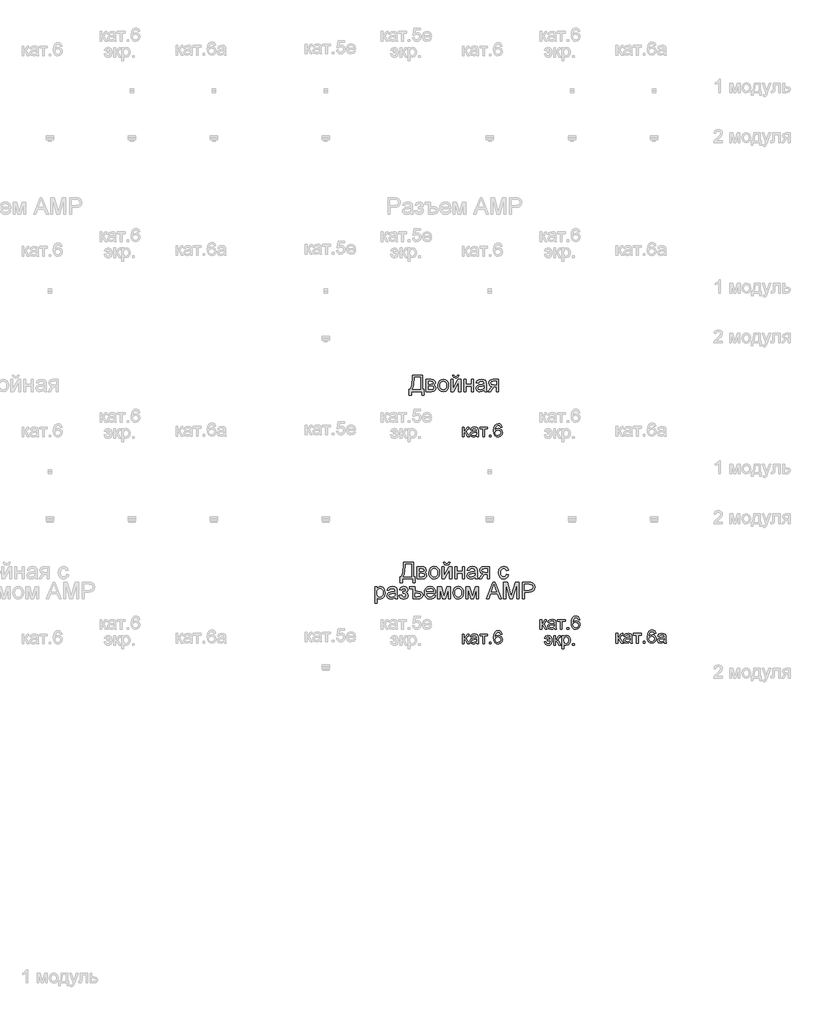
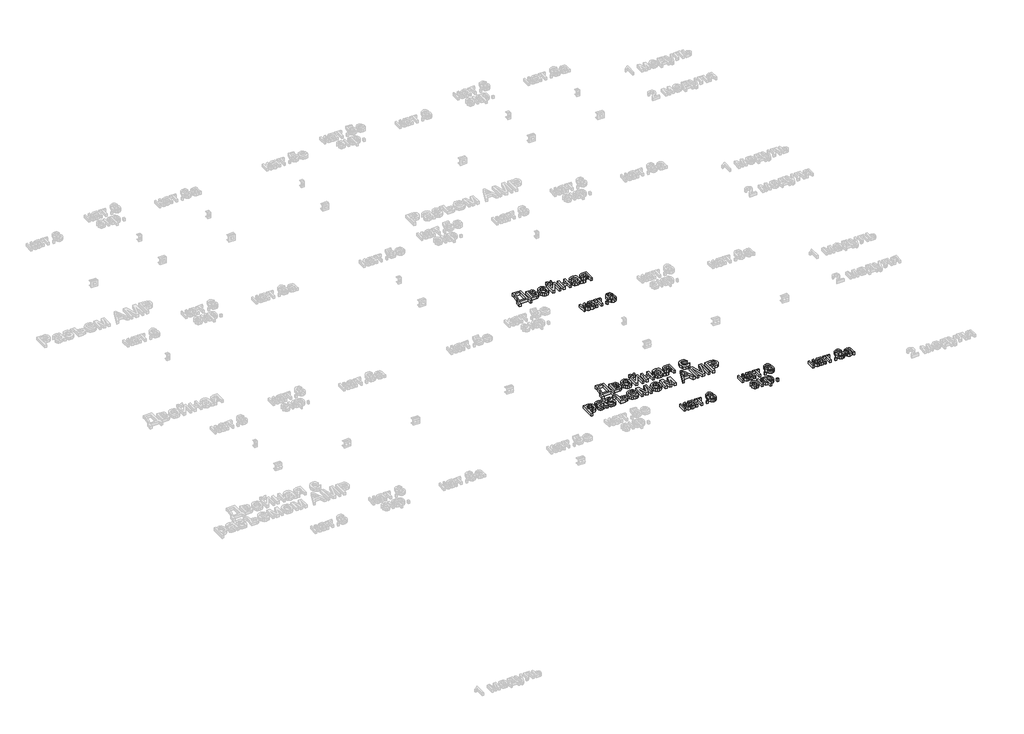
# One storey, part 30 of 47: 6 proxies.
"""IFC4 building model written with IfcOpenShell, lengths in millimetres."""

from ifc_helpers import new_model, si_unit, origin, origin_with_axes, place, context, project, spatial, polyline, outline, extrude, element, save

model = new_model("IFC4")

# Units and contexts
model_context = context("Model", 3, world=origin())
ifc_project = project(units=[si_unit("LENGTHUNIT", "METRE", prefix="MILLI")], contexts=[model_context])

# Site, building, storey
site = spatial("IfcSite", under=ifc_project)
building = spatial("IfcBuilding", under=site)
storey = spatial("IfcBuildingStorey", under=building, Name="Этаж 01", Elevation=0.0)

# Proxies
placement = place(None, origin())
element("IfcBuildingElementProxy", 1, Name="100 мм Arial", ObjectType="100 мм Arial", at=placement, inside=storey, context=model_context, shape_type="SweptSolid", body=[
    extrude(outline(polyline([(5995.2901237, -22050.4463281), (6054.9360579, -22050.4463281), (6054.9360579, -22138.3455994), (6064.353837, -22138.3455994), (6064.353837, -22174.4470859), (6051.7967982, -22174.4470859), (6051.7967982, -22150.9026382), (5987.4419745, -22150.9026382), (5987.4419745, -22174.4470859), (5974.8849357, -22174.4470859), (5974.8849357, -22138.3455994), (5982.733085, -22138.3455994), (5992.150864, -22110.9322594), (5995.2901237, -22064.9899296), (5995.2901237, -22050.4463281)]), holes=[polyline([(6042.3790191, -22063.0033668), (6007.8471625, -22063.0033668), (6007.8471625, -22068.0556129), (6005.296514, -22102.4648422), (6001.5195922, -22122.348864), (5995.2901237, -22138.3455994), (6042.3790191, -22138.3455994), (6042.3790191, -22063.0033668)])]), origin_with_axes(), (0.0, 0.0, 1.0), 20.0),
    extrude(outline(polyline([(6078.4805056, -22077.1300355), (6106.1452316, -22077.1300355), (6121.3142326, -22078.8100299), (6129.8490948, -22084.9659219), (6133.4175502, -22095.6958135), (6131.2593092, -22104.4146168), (6124.7600606, -22110.6318225), (6133.196821, -22117.4376394), (6136.5568099, -22129.2711769), (6134.4292257, -22138.8422401), (6129.3708482, -22145.580612), (6121.3632835, -22149.5721317), (6110.3881373, -22150.9026382), (6078.4805056, -22150.9026382), (6078.4805056, -22077.1300355)]), holes=[polyline([(6091.0375444, -22105.3833727), (6103.4474303, -22105.3833727), (6113.6868125, -22104.7457106), (6118.6654822, -22102.1950621), (6120.8605114, -22097.5842744), (6117.0100132, -22091.4283823), (6103.8398378, -22089.6870742), (6091.0375444, -22089.6870742), (6091.0375444, -22105.3833727)]), polyline([(6091.0375444, -22138.3455994), (6106.4395372, -22138.3455994), (6120.100222, -22136.0769938), (6123.9997711, -22128.2411073), (6121.8537928, -22122.1955799), (6116.2619865, -22118.6761754), (6105.2132639, -22117.9404114), (6091.0375444, -22117.9404114), (6091.0375444, -22138.3455994)])]), origin_with_axes(), (0.0, 0.0, 1.0), 20.0),
    extrude(outline(polyline([(6149.1138487, -22114.0163368), (6151.8300441, -22096.2292424), (6159.9786302, -22083.7273859), (6170.0463342, -22077.6021507), (6182.1006009, -22075.5604056), (6195.2922361, -22078.0466748), (6205.8289896, -22085.5054822), (6212.735974, -22097.3482168), (6215.0383022, -22112.9862672), (6210.9670748, -22135.3289671), (6199.1090118, -22147.971845), (6182.1006009, -22152.4722681), (6168.7495501, -22149.995196), (6158.2250594, -22142.5639797), (6151.3916513, -22130.4729248), (6149.1138487, -22114.0163368)]), holes=[polyline([(6161.6708874, -22113.9918114), (6163.1240213, -22125.3562993), (6167.4834229, -22133.4527689), (6174.0439852, -22138.2996142), (6182.1006009, -22139.9152293), (6190.1204284, -22138.2904171), (6196.6687279, -22133.4159807), (6201.0281295, -22125.2122122), (6202.4812634, -22113.5994039), (6201.0189325, -22102.5660097), (6196.6319397, -22094.5799048), (6190.0744431, -22089.7330595), (6182.1006009, -22088.1174444), (6174.0439852, -22089.7269281), (6167.4834229, -22094.5553793), (6163.1240213, -22102.6334548), (6161.6708874, -22113.9918114)])]), origin_with_axes(), (0.0, 0.0, 1.0), 20.0),
    extrude(outline(polyline([(6229.1649708, -22077.1300355), (6241.7220096, -22077.1300355), (6241.7220096, -22133.3914552), (6272.5750462, -22077.1300355), (6288.810905, -22077.1300355), (6288.810905, -22150.9026382), (6276.2538662, -22150.9026382), (6276.2538662, -22094.984575), (6245.5970333, -22150.9026382), (6229.1649708, -22150.9026382), (6229.1649708, -22077.1300355)])), origin_with_axes(), (0.0, 0.0, 1.0), 20.0),
    extrude(outline(polyline([(6269.9753468, -22050.4463281), (6279.3931259, -22050.4463281), (6273.2985475, -22064.4135812), (6259.7727528, -22069.2818862), (6245.1310494, -22064.4503694), (6238.5827499, -22050.4463281), (6248.000529, -22050.4463281), (6251.5321961, -22057.5219251), (6258.6445814, -22059.8641071), (6266.4436797, -22057.5955015), (6269.9753468, -22050.4463281)])), origin_with_axes(), (0.0, 0.0, 1.0), 20.0),
    extrude(outline(polyline([(6307.6464631, -22077.1300355), (6320.2035019, -22077.1300355), (6320.2035019, -22105.3833727), (6353.1657286, -22105.3833727), (6353.1657286, -22077.1300355), (6365.7227674, -22077.1300355), (6365.7227674, -22150.9026382), (6353.1657286, -22150.9026382), (6353.1657286, -22117.9404114), (6320.2035019, -22117.9404114), (6320.2035019, -22150.9026382), (6307.6464631, -22150.9026382), (6307.6464631, -22077.1300355)])), origin_with_axes(), (0.0, 0.0, 1.0), 20.0),
    extrude(outline(polyline([(6431.647221, -22141.4848591), (6419.4703269, -22149.995196), (6406.0181086, -22152.4722681), (6395.5242747, -22150.982346), (6387.7834244, -22146.5125797), (6383.0101555, -22139.7251569), (6381.4190659, -22131.2822651), (6383.8225616, -22121.3494513), (6390.1378692, -22114.1389642), (6398.9302488, -22110.0186858), (6409.7950304, -22108.1302249), (6431.5736446, -22103.8137428), (6431.647221, -22101.0178397), (6428.1891302, -22091.7472134), (6414.3077162, -22088.1174444), (6401.6035247, -22090.5332028), (6395.5457345, -22099.1048533), (6382.9886957, -22097.5352234), (6388.4210865, -22085.2724903), (6399.3594445, -22078.0865286), (6415.926397, -22075.5604056), (6431.1444489, -22077.792223), (6439.7406248, -22083.3962921), (6443.5911231, -22091.9188917), (6444.2042597, -22102.9063006), (6444.2042597, -22118.5290226), (6444.8419218, -22140.344425), (6447.3435194, -22150.9026382), (6434.7864806, -22150.9026382), (6431.647221, -22141.4848591)]), holes=[polyline([(6431.647221, -22116.3707816), (6411.3891858, -22120.2212798), (6400.5857178, -22122.2568935), (6395.6928873, -22125.5678315), (6393.9761046, -22130.3993484), (6397.7162383, -22137.1929025), (6408.6913845, -22139.9152293), (6421.395576, -22136.9108597), (6429.5870818, -22129.6390589), (6431.5736446, -22119.9269742), (6431.647221, -22116.3707816)])]), origin_with_axes(), (0.0, 0.0, 1.0), 20.0),
    extrude(outline(polyline([(6517.9768625, -22077.1300355), (6517.9768625, -22150.9026382), (6505.4198237, -22150.9026382), (6505.4198237, -22122.649301), (6498.5772186, -22122.649301), (6489.2575414, -22124.2434563), (6480.5019499, -22134.9610851), (6470.4955596, -22150.9026382), (6455.9764836, -22150.9026382), (6468.5825733, -22130.7427049), (6479.2756766, -22120.2948562), (6470.6917634, -22117.6645), (6464.6584987, -22112.6674362), (6459.9005582, -22098.4426657), (6461.5253703, -22089.8464898), (6466.3998068, -22083.0406728), (6474.3521892, -22078.6076948), (6485.2108394, -22077.1300355), (6517.9768625, -22077.1300355)]), holes=[polyline([(6505.4198237, -22089.6870742), (6488.8651339, -22089.6870742), (6475.4619666, -22092.593342), (6472.4575969, -22099.3991589), (6476.8844436, -22107.5048255), (6492.5684794, -22110.0922622), (6505.4198237, -22110.0922622), (6505.4198237, -22089.6870742)])]), origin_with_axes(), (0.0, 0.0, 1.0), 20.0),
])
element("IfcBuildingElementProxy", 2, Name="100 мм Arial", ObjectType="100 мм Arial", at=placement, inside=storey, context=model_context, shape_type="SweptSolid", body=[
    extrude(outline(polyline([(5940.3530791, -23190.4463281), (5999.9990133, -23190.4463281), (5999.9990133, -23278.3455994), (6009.4167924, -23278.3455994), (6009.4167924, -23314.4470859), (5996.8597536, -23314.4470859), (5996.8597536, -23290.9026382), (5932.5049299, -23290.9026382), (5932.5049299, -23314.4470859), (5919.9478911, -23314.4470859), (5919.9478911, -23278.3455994), (5927.7960404, -23278.3455994), (5937.2138194, -23250.9322594), (5940.3530791, -23204.9899296), (5940.3530791, -23190.4463281)]), holes=[polyline([(5987.4419745, -23203.0033668), (5952.9101179, -23203.0033668), (5952.9101179, -23208.0556129), (5950.3594694, -23242.4648422), (5946.5825476, -23262.348864), (5940.3530791, -23278.3455994), (5987.4419745, -23278.3455994), (5987.4419745, -23203.0033668)])]), origin_with_axes(), (0.0, 0.0, 1.0), 20.0),
    extrude(outline(polyline([(6023.543461, -23217.1300355), (6051.208187, -23217.1300355), (6066.3771879, -23218.8100299), (6074.9120502, -23224.9659219), (6078.4805056, -23235.6958135), (6076.3222645, -23244.4146168), (6069.823016, -23250.6318225), (6078.2597764, -23257.4376394), (6081.6197653, -23269.2711769), (6079.4921811, -23278.8422401), (6074.4338036, -23285.580612), (6066.4262389, -23289.5721317), (6055.4510927, -23290.9026382), (6023.543461, -23290.9026382), (6023.543461, -23217.1300355)]), holes=[polyline([(6036.1004997, -23245.3833727), (6048.5103857, -23245.3833727), (6058.7497679, -23244.7457106), (6063.7284376, -23242.1950621), (6065.9234668, -23237.5842744), (6062.0729686, -23231.4283823), (6048.9027932, -23229.6870742), (6036.1004997, -23229.6870742), (6036.1004997, -23245.3833727)]), polyline([(6036.1004997, -23278.3455994), (6051.5024926, -23278.3455994), (6065.1631774, -23276.0769938), (6069.0627265, -23268.2411073), (6066.9167482, -23262.1955799), (6061.3249419, -23258.6761754), (6050.2762193, -23257.9404114), (6036.1004997, -23257.9404114), (6036.1004997, -23278.3455994)])]), origin_with_axes(), (0.0, 0.0, 1.0), 20.0),
    extrude(outline(polyline([(6094.176804, -23254.0163368), (6096.8929994, -23236.2292424), (6105.0415856, -23223.7273859), (6115.1092896, -23217.6021507), (6127.1635563, -23215.5604056), (6140.3551915, -23218.0466748), (6150.891945, -23225.5054822), (6157.7989294, -23237.3482168), (6160.1012576, -23252.9862672), (6156.0300302, -23275.3289671), (6144.1719672, -23287.971845), (6127.1635563, -23292.4722681), (6113.8125055, -23289.995196), (6103.2880148, -23282.5639797), (6096.4546067, -23270.4729248), (6094.176804, -23254.0163368)]), holes=[polyline([(6106.7338428, -23253.9918114), (6108.1869767, -23265.3562993), (6112.5463783, -23273.4527689), (6119.1069406, -23278.2996142), (6127.1635563, -23279.9152293), (6135.1833838, -23278.2904171), (6141.7316833, -23273.4159807), (6146.0910849, -23265.2122122), (6147.5442188, -23253.5994039), (6146.0818879, -23242.5660097), (6141.6948951, -23234.5799048), (6135.1373985, -23229.7330595), (6127.1635563, -23228.1174444), (6119.1069406, -23229.7269281), (6112.5463783, -23234.5553793), (6108.1869767, -23242.6334548), (6106.7338428, -23253.9918114)])]), origin_with_axes(), (0.0, 0.0, 1.0), 20.0),
    extrude(outline(polyline([(6174.2279262, -23217.1300355), (6186.784965, -23217.1300355), (6186.784965, -23273.3914552), (6217.6380016, -23217.1300355), (6233.8738603, -23217.1300355), (6233.8738603, -23290.9026382), (6221.3168216, -23290.9026382), (6221.3168216, -23234.984575), (6190.6599886, -23290.9026382), (6174.2279262, -23290.9026382), (6174.2279262, -23217.1300355)])), origin_with_axes(), (0.0, 0.0, 1.0), 20.0),
    extrude(outline(polyline([(6215.0383022, -23190.4463281), (6224.4560813, -23190.4463281), (6218.3615029, -23204.4135812), (6204.8357082, -23209.2818862), (6190.1940048, -23204.4503694), (6183.6457053, -23190.4463281), (6193.0634843, -23190.4463281), (6196.5951515, -23197.5219251), (6203.7075367, -23199.8641071), (6211.506635, -23197.5955015), (6215.0383022, -23190.4463281)])), origin_with_axes(), (0.0, 0.0, 1.0), 20.0),
    extrude(outline(polyline([(6252.7094185, -23217.1300355), (6265.2664573, -23217.1300355), (6265.2664573, -23245.3833727), (6298.228684, -23245.3833727), (6298.228684, -23217.1300355), (6310.7857228, -23217.1300355), (6310.7857228, -23290.9026382), (6298.228684, -23290.9026382), (6298.228684, -23257.9404114), (6265.2664573, -23257.9404114), (6265.2664573, -23290.9026382), (6252.7094185, -23290.9026382), (6252.7094185, -23217.1300355)])), origin_with_axes(), (0.0, 0.0, 1.0), 20.0),
    extrude(outline(polyline([(6376.7101763, -23281.4848591), (6364.5332823, -23289.995196), (6351.081064, -23292.4722681), (6340.5872301, -23290.982346), (6332.8463798, -23286.5125797), (6328.0731109, -23279.7251569), (6326.4820213, -23271.2822651), (6328.885517, -23261.3494513), (6335.2008245, -23254.1389642), (6343.9932042, -23250.0186858), (6354.8579858, -23248.1302249), (6376.6365999, -23243.8137428), (6376.7101763, -23241.0178397), (6373.2520856, -23231.7472134), (6359.3706716, -23228.1174444), (6346.6664801, -23230.5332028), (6340.6086899, -23239.1048533), (6328.0516511, -23237.5352234), (6333.4840419, -23225.2724903), (6344.4223999, -23218.0865286), (6360.9893524, -23215.5604056), (6376.2074043, -23217.792223), (6384.8035802, -23223.3962921), (6388.6540784, -23231.9188917), (6389.2672151, -23242.9063006), (6389.2672151, -23258.5290226), (6389.9048772, -23280.344425), (6392.4064748, -23290.9026382), (6379.849436, -23290.9026382), (6376.7101763, -23281.4848591)]), holes=[polyline([(6376.7101763, -23256.3707816), (6356.4521411, -23260.2212798), (6345.6486732, -23262.2568935), (6340.7558427, -23265.5678315), (6339.03906, -23270.3993484), (6342.7791936, -23277.1929025), (6353.7543398, -23279.9152293), (6366.4585314, -23276.9108597), (6374.6500372, -23269.6390589), (6376.6365999, -23259.9269742), (6376.7101763, -23256.3707816)])]), origin_with_axes(), (0.0, 0.0, 1.0), 20.0),
    extrude(outline(polyline([(6463.0398179, -23217.1300355), (6463.0398179, -23290.9026382), (6450.4827791, -23290.9026382), (6450.4827791, -23262.649301), (6443.640174, -23262.649301), (6434.3204968, -23264.2434563), (6425.5649053, -23274.9610851), (6415.558515, -23290.9026382), (6401.039439, -23290.9026382), (6413.6455287, -23270.7427049), (6424.338632, -23260.2948562), (6415.7547188, -23257.6645), (6409.721454, -23252.6674362), (6404.9635136, -23238.4426657), (6406.5883257, -23229.8464898), (6411.4627621, -23223.0406728), (6419.4151446, -23218.6076948), (6430.2737948, -23217.1300355), (6463.0398179, -23217.1300355)]), holes=[polyline([(6450.4827791, -23229.6870742), (6433.9280893, -23229.6870742), (6420.524922, -23232.593342), (6417.5205523, -23239.3991589), (6421.947399, -23247.5048255), (6437.6314347, -23250.0922622), (6450.4827791, -23250.0922622), (6450.4827791, -23229.6870742)])]), origin_with_axes(), (0.0, 0.0, 1.0), 20.0),
    extrude(outline(polyline([(6568.2050176, -23264.2189308), (6580.7620563, -23265.7885607), (6577.261046, -23276.9568449), (6570.6820897, -23285.396671), (6561.6444553, -23290.7033688), (6550.767411, -23292.4722681), (6537.4102289, -23290.004393), (6526.9654459, -23282.6007679), (6520.2240083, -23270.586355), (6517.9768625, -23254.286117), (6521.815098, -23233.4272078), (6533.5137454, -23220.0240405), (6550.5957327, -23215.5604056), (6561.2060626, -23217.0932473), (6569.6888083, -23221.6917722), (6575.7741896, -23229.1107258), (6579.1924265, -23239.1048533), (6566.6353877, -23240.6744831), (6560.8105895, -23231.2689668), (6550.6938346, -23228.1174444), (6542.5789709, -23229.6686801), (6536.1379703, -23234.3223874), (6531.9349185, -23242.3299521), (6530.5339013, -23253.9427604), (6531.9042617, -23265.7119186), (6536.015343, -23273.7470745), (6542.3398476, -23278.3731906), (6550.3504781, -23279.9152293), (6562.1840156, -23276.0647311), (6568.2050176, -23264.2189308)])), origin_with_axes(), (0.0, 0.0, 1.0), 20.0),
    extrude(outline(polyline([(5765.3393513, -23441.1307933), (5765.3393513, -23339.1048533), (5777.8963901, -23339.1048533), (5777.8963901, -23351.4166374), (5786.5784051, -23341.0055769), (5798.3015781, -23337.5352234), (5814.2186057, -23342.3912658), (5824.6174034, -23356.076476), (5828.1245451, -23375.427069), (5824.1636823, -23395.7709433), (5812.6612386, -23409.6278318), (5796.7809991, -23414.4470859), (5785.8549039, -23411.2219871), (5777.8963901, -23403.0672695), (5777.8963901, -23441.1307933), (5765.3393513, -23441.1307933)]), holes=[polyline([(5777.8963901, -23376.5797659), (5779.2544878, -23387.8369549), (5783.3287809, -23395.7096296), (5789.3405858, -23400.3449428), (5796.511219, -23401.8900471), (5803.7983482, -23400.2897605), (5809.9634373, -23395.4889004), (5814.1664891, -23387.3280515), (5815.5675064, -23375.6477982), (5814.2002116, -23364.4519228), (5810.0983274, -23356.4688835), (5804.0957195, -23351.6864175), (5797.0262538, -23350.0922622), (5789.929197, -23351.7875851), (5783.6966628, -23356.8735537), (5779.3464583, -23365.1907524), (5777.8963901, -23376.5797659)])]), origin_with_axes(), (0.0, 0.0, 1.0), 20.0),
    extrude(outline(polyline([(5889.3401091, -23403.459677), (5877.1632151, -23411.9700138), (5863.7109968, -23414.4470859), (5853.2171629, -23412.9571638), (5845.4763126, -23408.4873976), (5840.7030437, -23401.6999748), (5839.1119541, -23393.257083), (5841.5154498, -23383.3242691), (5847.8307573, -23376.113782), (5856.623137, -23371.9935037), (5867.4879186, -23370.1050428), (5889.2665327, -23365.7885607), (5889.3401091, -23362.9926575), (5885.8820184, -23353.7220312), (5872.0006044, -23350.0922622), (5859.2964129, -23352.5080207), (5853.2386227, -23361.0796711), (5840.6815839, -23359.5100413), (5846.1139747, -23347.2473081), (5857.0523327, -23340.0613465), (5873.6192852, -23337.5352234), (5888.8373371, -23339.7670409), (5897.433513, -23345.3711099), (5901.2840112, -23353.8937095), (5901.8971479, -23364.8811184), (5901.8971479, -23380.5038405), (5902.53481, -23402.3192428), (5905.0364076, -23412.8774561), (5892.4793688, -23412.8774561), (5889.3401091, -23403.459677)]), holes=[polyline([(5889.3401091, -23378.3455994), (5869.0820739, -23382.1960977), (5858.278606, -23384.2317114), (5853.3857755, -23387.5426493), (5851.6689928, -23392.3741662), (5855.4091264, -23399.1677204), (5866.3842726, -23401.8900471), (5879.0884642, -23398.8856775), (5887.27997, -23391.6138767), (5889.2665327, -23381.9017921), (5889.3401091, -23378.3455994)])]), origin_with_axes(), (0.0, 0.0, 1.0), 20.0),
    extrude(outline(polyline([(5936.4290045, -23379.9152293), (5936.4290045, -23367.3581905), (5946.3372929, -23366.8676812), (5951.340488, -23364.255719), (5953.6949328, -23358.7988028), (5950.5434104, -23352.4589697), (5942.4132183, -23350.0922622), (5934.0132461, -23352.446707), (5928.5808553, -23359.5100413), (5914.4541867, -23357.9404114), (5923.8964912, -23342.6365204), (5941.137894, -23337.5352234), (5951.6347936, -23339.0895249), (5959.5810447, -23343.7524292), (5964.5842399, -23350.5735745), (5966.2519716, -23358.602599), (5963.8791327, -23366.4016973), (5956.7606161, -23372.4349621), (5965.0624865, -23380.2585858), (5967.8216014, -23391.5157749), (5966.0710963, -23400.75881), (5960.8195808, -23408.0827274), (5952.4226743, -23412.8559963), (5941.2359959, -23414.4470859), (5930.2945722, -23412.9755579), (5921.9221912, -23408.560974), (5916.1188527, -23401.2033341), (5912.8845568, -23390.9026382), (5927.0112254, -23389.3330084), (5932.6766082, -23398.6036346), (5942.4377438, -23401.8900471), (5951.6102682, -23398.7385247), (5955.2645627, -23390.681909), (5952.995957, -23384.0845586), (5948.1644402, -23380.5528914), (5938.8815511, -23379.8416529), (5936.4290045, -23379.9152293)])), origin_with_axes(), (0.0, 0.0, 1.0), 20.0),
    extrude(outline(polyline([(5977.2393805, -23339.1048533), (6010.2016073, -23339.1048533), (6010.2016073, -23367.3581905), (6025.7752784, -23367.3581905), (6040.0613626, -23369.0197909), (6049.8102354, -23374.0045919), (6055.4204359, -23381.39902), (6057.2905027, -23390.2895016), (6055.4694868, -23399.3669898), (6050.0064392, -23406.5866739), (6040.9871989, -23411.3047605), (6028.4976052, -23412.8774561), (5997.6445685, -23412.8774561), (5997.6445685, -23351.6618921), (5977.2393805, -23351.6618921), (5977.2393805, -23339.1048533)]), holes=[polyline([(6010.2016073, -23400.3204173), (6023.126528, -23400.3204173), (6039.8161079, -23397.9046589), (6044.7334639, -23390.1423488), (6040.5273464, -23382.5885051), (6024.7697343, -23379.9152293), (6010.2016073, -23379.9152293), (6010.2016073, -23400.3204173)])]), origin_with_axes(), (0.0, 0.0, 1.0), 20.0),
    extrude(outline(polyline([(6123.0678034, -23390.9026382), (6135.3795875, -23392.4722681), (6130.9435438, -23401.7490257), (6123.8648811, -23408.6836013), (6114.3030149, -23413.0062148), (6102.4173607, -23414.4470859), (6087.6836868, -23411.9608168), (6076.34679, -23404.5020093), (6069.1179088, -23392.5550415), (6066.7082817, -23376.6042913), (6069.1424343, -23360.1170466), (6076.4448919, -23347.7868684), (6087.6285045, -23340.0981347), (6101.7061222, -23337.5352234), (6115.3453472, -23340.0920033), (6126.2438513, -23347.7623429), (6133.389959, -23360.0679957), (6135.771995, -23376.5307149), (6135.6984186, -23379.9152293), (6079.2653205, -23379.9152293), (6081.43889, -23389.3146143), (6086.4880703, -23396.2246644), (6093.7751995, -23400.4737015), (6102.6626154, -23401.8900471), (6114.9743995, -23399.2658222), (6123.0678034, -23390.9026382)]), holes=[polyline([(6079.2653205, -23367.3581905), (6123.2149562, -23367.3581905), (6118.1872356, -23355.9783741), (6110.8663839, -23351.5637902), (6101.6570713, -23350.0922622), (6086.1937647, -23354.788889), (6081.3285254, -23360.2795278), (6079.2653205, -23367.3581905)])]), origin_with_axes(), (0.0, 0.0, 1.0), 20.0),
    extrude(outline(polyline([(6148.3290337, -23339.1048533), (6169.9359696, -23339.1048533), (6186.5887612, -23398.1621763), (6204.5414026, -23339.1048533), (6225.2408962, -23339.1048533), (6225.2408962, -23412.8774561), (6212.6838574, -23412.8774561), (6212.6838574, -23353.4767766), (6194.6331142, -23412.8774561), (6178.1520008, -23412.8774561), (6160.8860725, -23350.6318225), (6160.8860725, -23412.8774561), (6148.3290337, -23412.8774561), (6148.3290337, -23339.1048533)])), origin_with_axes(), (0.0, 0.0, 1.0), 20.0),
    extrude(outline(polyline([(6240.9371947, -23375.9911547), (6243.65339, -23358.2040602), (6251.8019762, -23345.7022037), (6261.8696802, -23339.5769685), (6273.9239469, -23337.5352234), (6287.1155821, -23340.0214926), (6297.6523356, -23347.4803001), (6304.55932, -23359.3230346), (6306.8616482, -23374.9610851), (6302.7904208, -23397.3037849), (6290.9323578, -23409.9466628), (6273.9239469, -23414.4470859), (6260.5728961, -23411.9700138), (6250.0484054, -23404.5387975), (6243.2149973, -23392.4477426), (6240.9371947, -23375.9911547)]), holes=[polyline([(6253.4942334, -23375.9666292), (6254.9473673, -23387.3311172), (6259.3067689, -23395.4275868), (6265.8673312, -23400.274432), (6273.9239469, -23401.8900471), (6281.9437744, -23400.265235), (6288.4920739, -23395.3907986), (6292.8514755, -23387.1870301), (6294.3046094, -23375.5742218), (6292.8422785, -23364.5408276), (6288.4552857, -23356.5547226), (6281.8977891, -23351.7078773), (6273.9239469, -23350.0922622), (6265.8673312, -23351.7017459), (6259.3067689, -23356.5301971), (6254.9473673, -23364.6082726), (6253.4942334, -23375.9666292)])]), origin_with_axes(), (0.0, 0.0, 1.0), 20.0),
    extrude(outline(polyline([(6320.9883168, -23339.1048533), (6342.5952527, -23339.1048533), (6359.2480443, -23398.1621763), (6377.2006857, -23339.1048533), (6397.9001793, -23339.1048533), (6397.9001793, -23412.8774561), (6385.3431405, -23412.8774561), (6385.3431405, -23353.4767766), (6367.2923973, -23412.8774561), (6350.8112839, -23412.8774561), (6333.5453556, -23350.6318225), (6333.5453556, -23412.8774561), (6320.9883168, -23412.8774561), (6320.9883168, -23339.1048533)])), origin_with_axes(), (0.0, 0.0, 1.0), 20.0),
    extrude(outline(polyline([(6445.847466, -23412.8774561), (6485.9466034, -23312.4211459), (6496.6397068, -23312.4211459), (6536.7388442, -23412.8774561), (6523.4705669, -23412.8774561), (6511.9681232, -23381.4848591), (6470.5936615, -23381.4848591), (6459.1157433, -23412.8774561), (6445.847466, -23412.8774561)]), holes=[polyline([(6475.2044492, -23368.9278204), (6507.381861, -23368.9278204), (6498.3319639, -23344.2306758), (6491.2931551, -23324.9781847), (6485.0391612, -23342.0724347), (6475.2044492, -23368.9278204)])]), origin_with_axes(), (0.0, 0.0, 1.0), 20.0),
    extrude(outline(polyline([(6550.1542743, -23412.8774561), (6550.1542743, -23312.4211459), (6571.7612102, -23312.4211459), (6592.313551, -23383.2261673), (6596.4583548, -23398.0150235), (6600.9465151, -23381.9998939), (6621.1554994, -23312.4211459), (6642.7624353, -23312.4211459), (6642.7624353, -23412.8774561), (6630.2053965, -23412.8774561), (6630.2053965, -23324.9781847), (6604.9686916, -23412.8774561), (6587.948018, -23412.8774561), (6562.7113131, -23324.9781847), (6562.7113131, -23412.8774561), (6550.1542743, -23412.8774561)])), origin_with_axes(), (0.0, 0.0, 1.0), 20.0),
    extrude(outline(polyline([(6664.7372531, -23412.8774561), (6664.7372531, -23312.4211459), (6701.966911, -23312.4211459), (6716.9764964, -23313.3776391), (6729.1779159, -23318.0742659), (6737.0873788, -23327.7863506), (6740.0794857, -23341.4838235), (6738.0592004, -23353.3234924), (6731.9983445, -23363.1888612), (6720.6645134, -23369.8475254), (6702.8253023, -23372.0670801), (6677.2942919, -23372.0670801), (6677.2942919, -23412.8774561), (6664.7372531, -23412.8774561)]), holes=[polyline([(6677.2942919, -23359.5100413), (6703.5610663, -23359.5100413), (6722.0532679, -23354.8992536), (6726.1551522, -23349.3503669), (6727.5224469, -23341.9252819), (6724.2973481, -23331.5264842), (6715.8237995, -23325.836576), (6703.2667607, -23324.9781847), (6677.2942919, -23324.9781847), (6677.2942919, -23359.5100413)])]), origin_with_axes(), (0.0, 0.0, 1.0), 20.0),
])
element("IfcBuildingElementProxy", 3, Name="80 мм Arial", ObjectType="80 мм Arial", at=placement, inside=storey, context=model_context, shape_type="SweptSolid", body=[
    extrude(outline(polyline([(6298.8748928, -22367.654338), (6308.9205238, -22367.654338), (6308.9205238, -22392.7684155), (6315.6503118, -22390.9633412), (6321.1636366, -22380.4468212), (6325.7449937, -22371.3723987), (6329.7867906, -22368.4195325), (6337.1346203, -22367.654338), (6339.0574169, -22367.654338), (6339.0574169, -22377.7588301), (6336.3498054, -22377.699969), (6331.4447121, -22378.7594692), (6327.9915264, -22385.3715349), (6323.9399194, -22392.5231609), (6318.2598214, -22396.0253975), (6324.5972019, -22399.9347568), (6330.8168602, -22408.1704084), (6341.5688246, -22426.6724202), (6330.1497675, -22426.6724202), (6319.6136271, -22408.5628159), (6314.3161264, -22400.9010602), (6308.9205238, -22399.0469349), (6308.9205238, -22426.6724202), (6298.8748928, -22426.6724202), (6298.8748928, -22367.654338)])), origin_with_axes(), (0.0, 0.0, 1.0), 20.0),
    extrude(outline(polyline([(6385.5184603, -22419.1381969), (6375.7769451, -22425.9464664), (6365.0151704, -22427.9281241), (6350.4274231, -22423.1603734), (6345.3359362, -22410.9761218), (6347.2587328, -22403.0298707), (6352.3109789, -22397.261481), (6359.3448826, -22393.9652583), (6368.0367079, -22392.4544896), (6385.4595992, -22389.0013039), (6385.5184603, -22386.7645814), (6382.7519877, -22379.3480804), (6371.6468565, -22376.4442651), (6361.4835033, -22378.3768719), (6356.6372711, -22385.2341923), (6346.5916401, -22383.9784884), (6350.9375528, -22374.1683019), (6359.6882391, -22368.4195325), (6372.9418012, -22366.3986341), (6385.1162427, -22368.1840881), (6391.9931834, -22372.6673433), (6395.073582, -22379.485423), (6395.5640913, -22388.2753501), (6395.5640913, -22400.7735278), (6396.074221, -22418.2258496), (6398.0754991, -22426.6724202), (6388.0298681, -22426.6724202), (6385.5184603, -22419.1381969)]), holes=[polyline([(6385.5184603, -22399.0469349), (6369.3120321, -22402.1273335), (6360.6692578, -22403.7558245), (6356.7549934, -22406.4045748), (6355.3815673, -22410.2697883), (6358.3736742, -22415.7046317), (6367.1537911, -22417.8824931), (6377.3171444, -22415.4789974), (6383.870349, -22409.6615568), (6385.4595992, -22401.891889), (6385.5184603, -22399.0469349)])]), origin_with_axes(), (0.0, 0.0, 1.0), 20.0),
    extrude(outline(polyline([(6404.3540185, -22367.654338), (6452.0707658, -22367.654338), (6452.0707658, -22377.699969), (6433.2352076, -22377.699969), (6433.2352076, -22426.6724202), (6423.1895766, -22426.6724202), (6423.1895766, -22377.699969), (6404.3540185, -22377.699969), (6404.3540185, -22367.654338)])), origin_with_axes(), (0.0, 0.0, 1.0), 20.0),
    extrude(outline(polyline([(6463.3721007, -22426.6724202), (6463.3721007, -22416.6267892), (6473.4177317, -22416.6267892), (6473.4177317, -22426.6724202), (6463.3721007, -22426.6724202)])), origin_with_axes(), (0.0, 0.0, 1.0), 20.0),
    extrude(outline(polyline([(6541.225741, -22367.654338), (6531.18011, -22368.9100419), (6527.3737576, -22360.5321426), (6517.3085063, -22356.3530031), (6508.2438939, -22358.7859294), (6501.3865735, -22367.919213), (6498.5318092, -22385.8228035), (6507.3904077, -22377.8078811), (6518.3680064, -22375.1885613), (6527.6484429, -22376.9789203), (6535.437731, -22382.3499974), (6540.7205164, -22390.5562185), (6542.4814449, -22400.8520092), (6539.1656019, -22414.7138028), (6530.0421284, -22424.5239894), (6516.876858, -22427.9281241), (6505.4798738, -22425.6717812), (6496.4029987, -22418.9027525), (6490.4653833, -22406.9539453), (6488.4861782, -22389.1582669), (6490.68366, -22369.1503914), (6497.2761053, -22355.4700863), (6506.2769515, -22348.5980506), (6517.9363582, -22346.3073721), (6526.7508108, -22347.724944), (6533.80924, -22351.9776599), (6541.225741, -22367.654338)]), holes=[polyline([(6498.5318092, -22400.6950463), (6500.8568234, -22409.3966817), (6507.0372409, -22415.7144418), (6516.0920431, -22417.8824931), (6527.9329383, -22413.3894276), (6532.4358139, -22401.1855556), (6527.9917994, -22389.5016234), (6515.6800153, -22385.2341923), (6503.5251942, -22389.5016234), (6498.5318092, -22400.6950463)])]), origin_with_axes(), (0.0, 0.0, 1.0), 20.0),
])
element("IfcBuildingElementProxy", 4, Name="80 мм Arial", ObjectType="80 мм Arial", at=placement, inside=storey, context=model_context, shape_type="SweptSolid", body=[
    extrude(outline(polyline([(6298.8748928, -23627.654338), (6308.9205238, -23627.654338), (6308.9205238, -23652.7684155), (6315.6503118, -23650.9633412), (6321.1636366, -23640.4468212), (6325.7449937, -23631.3723987), (6329.7867906, -23628.4195325), (6337.1346203, -23627.654338), (6339.0574169, -23627.654338), (6339.0574169, -23637.7588301), (6336.3498054, -23637.699969), (6331.4447121, -23638.7594692), (6327.9915264, -23645.3715349), (6323.9399194, -23652.5231609), (6318.2598214, -23656.0253975), (6324.5972019, -23659.9347568), (6330.8168602, -23668.1704084), (6341.5688246, -23686.6724202), (6330.1497675, -23686.6724202), (6319.6136271, -23668.5628159), (6314.3161264, -23660.9010602), (6308.9205238, -23659.0469349), (6308.9205238, -23686.6724202), (6298.8748928, -23686.6724202), (6298.8748928, -23627.654338)])), origin_with_axes(), (0.0, 0.0, 1.0), 20.0),
    extrude(outline(polyline([(6385.5184603, -23679.1381969), (6375.7769451, -23685.9464664), (6365.0151704, -23687.9281241), (6350.4274231, -23683.1603734), (6345.3359362, -23670.9761218), (6347.2587328, -23663.0298707), (6352.3109789, -23657.261481), (6359.3448826, -23653.9652583), (6368.0367079, -23652.4544896), (6385.4595992, -23649.0013039), (6385.5184603, -23646.7645814), (6382.7519877, -23639.3480804), (6371.6468565, -23636.4442651), (6361.4835033, -23638.3768719), (6356.6372711, -23645.2341923), (6346.5916401, -23643.9784884), (6350.9375528, -23634.1683019), (6359.6882391, -23628.4195325), (6372.9418012, -23626.3986341), (6385.1162427, -23628.1840881), (6391.9931834, -23632.6673433), (6395.073582, -23639.485423), (6395.5640913, -23648.2753501), (6395.5640913, -23660.7735278), (6396.074221, -23678.2258496), (6398.0754991, -23686.6724202), (6388.0298681, -23686.6724202), (6385.5184603, -23679.1381969)]), holes=[polyline([(6385.5184603, -23659.0469349), (6369.3120321, -23662.1273335), (6360.6692578, -23663.7558245), (6356.7549934, -23666.4045748), (6355.3815673, -23670.2697883), (6358.3736742, -23675.7046317), (6367.1537911, -23677.8824931), (6377.3171444, -23675.4789974), (6383.870349, -23669.6615568), (6385.4595992, -23661.891889), (6385.5184603, -23659.0469349)])]), origin_with_axes(), (0.0, 0.0, 1.0), 20.0),
    extrude(outline(polyline([(6404.3540185, -23627.654338), (6452.0707658, -23627.654338), (6452.0707658, -23637.699969), (6433.2352076, -23637.699969), (6433.2352076, -23686.6724202), (6423.1895766, -23686.6724202), (6423.1895766, -23637.699969), (6404.3540185, -23637.699969), (6404.3540185, -23627.654338)])), origin_with_axes(), (0.0, 0.0, 1.0), 20.0),
    extrude(outline(polyline([(6463.3721007, -23686.6724202), (6463.3721007, -23676.6267892), (6473.4177317, -23676.6267892), (6473.4177317, -23686.6724202), (6463.3721007, -23686.6724202)])), origin_with_axes(), (0.0, 0.0, 1.0), 20.0),
    extrude(outline(polyline([(6541.225741, -23627.654338), (6531.18011, -23628.9100419), (6527.3737576, -23620.5321426), (6517.3085063, -23616.3530031), (6508.2438939, -23618.7859294), (6501.3865735, -23627.919213), (6498.5318092, -23645.8228035), (6507.3904077, -23637.8078811), (6518.3680064, -23635.1885613), (6527.6484429, -23636.9789203), (6535.437731, -23642.3499974), (6540.7205164, -23650.5562185), (6542.4814449, -23660.8520092), (6539.1656019, -23674.7138028), (6530.0421284, -23684.5239894), (6516.876858, -23687.9281241), (6505.4798738, -23685.6717812), (6496.4029987, -23678.9027525), (6490.4653833, -23666.9539453), (6488.4861782, -23649.1582669), (6490.68366, -23629.1503914), (6497.2761053, -23615.4700863), (6506.2769515, -23608.5980506), (6517.9363582, -23606.3073721), (6526.7508108, -23607.724944), (6533.80924, -23611.9776599), (6541.225741, -23627.654338)]), holes=[polyline([(6498.5318092, -23660.6950463), (6500.8568234, -23669.3966817), (6507.0372409, -23675.7144418), (6516.0920431, -23677.8824931), (6527.9329383, -23673.3894276), (6532.4358139, -23661.1855556), (6527.9917994, -23649.5016234), (6515.6800153, -23645.2341923), (6503.5251942, -23649.5016234), (6498.5318092, -23660.6950463)])]), origin_with_axes(), (0.0, 0.0, 1.0), 20.0),
])
element("IfcBuildingElementProxy", 5, Name="80 мм Arial", ObjectType="80 мм Arial", at=placement, inside=storey, context=model_context, shape_type="SweptSolid", body=[
    extrude(outline(polyline([(6771.9396889, -23538.8197599), (6781.9853199, -23538.8197599), (6781.9853199, -23563.9338374), (6788.7151079, -23562.1287631), (6794.2284327, -23551.6122431), (6798.8097899, -23542.5378206), (6802.8515867, -23539.5849544), (6810.1994164, -23538.8197599), (6812.122213, -23538.8197599), (6812.122213, -23548.924252), (6809.4146015, -23548.8653909), (6804.5095082, -23549.924891), (6801.0563226, -23556.5369568), (6797.0047155, -23563.6885828), (6791.3246175, -23567.1908193), (6797.661998, -23571.1001787), (6803.8816563, -23579.3358303), (6814.6336207, -23597.8378421), (6803.2145636, -23597.8378421), (6792.6784233, -23579.7282377), (6787.3809225, -23572.0664821), (6781.9853199, -23570.2123568), (6781.9853199, -23597.8378421), (6771.9396889, -23597.8378421), (6771.9396889, -23538.8197599)])), origin_with_axes(), (0.0, 0.0, 1.0), 20.0),
    extrude(outline(polyline([(6858.5832564, -23590.3036188), (6848.8417412, -23597.1118883), (6838.0799666, -23599.093546), (6823.4922192, -23594.3257953), (6818.4007324, -23582.1415436), (6820.3235289, -23574.1952925), (6825.375775, -23568.4269029), (6832.4096787, -23565.1306802), (6841.101504, -23563.6199114), (6858.5243953, -23560.1667258), (6858.5832564, -23557.9300033), (6855.8167838, -23550.5135022), (6844.7116527, -23547.609687), (6834.5482994, -23549.5422938), (6829.7020673, -23556.3996142), (6819.6564362, -23555.1439103), (6824.0023489, -23545.3337237), (6832.7530353, -23539.5849544), (6846.0065973, -23537.564056), (6858.1810388, -23539.34951), (6865.0579795, -23543.8327652), (6868.1383781, -23550.6508448), (6868.6288874, -23559.440772), (6868.6288874, -23571.9389496), (6869.1390171, -23589.3912715), (6871.1402952, -23597.8378421), (6861.0946642, -23597.8378421), (6858.5832564, -23590.3036188)]), holes=[polyline([(6858.5832564, -23570.2123568), (6842.3768283, -23573.2927554), (6833.7340539, -23574.9212463), (6829.8197895, -23577.5699967), (6828.4463634, -23581.4352102), (6831.4384703, -23586.8700535), (6840.2185872, -23589.047915), (6850.3819405, -23586.6444193), (6856.9351451, -23580.8269786), (6858.5243953, -23573.0573109), (6858.5832564, -23570.2123568)])]), origin_with_axes(), (0.0, 0.0, 1.0), 20.0),
    extrude(outline(polyline([(6877.4188146, -23538.8197599), (6925.1355619, -23538.8197599), (6925.1355619, -23548.8653909), (6906.3000037, -23548.8653909), (6906.3000037, -23597.8378421), (6896.2543727, -23597.8378421), (6896.2543727, -23548.8653909), (6877.4188146, -23548.8653909), (6877.4188146, -23538.8197599)])), origin_with_axes(), (0.0, 0.0, 1.0), 20.0),
    extrude(outline(polyline([(6936.4368968, -23597.8378421), (6936.4368968, -23587.7922111), (6946.4825278, -23587.7922111), (6946.4825278, -23597.8378421), (6936.4368968, -23597.8378421)])), origin_with_axes(), (0.0, 0.0, 1.0), 20.0),
    extrude(outline(polyline([(7014.2905372, -23538.8197599), (7004.2449061, -23540.0754638), (7000.4385538, -23531.6975645), (6990.3733024, -23527.518425), (6981.30869, -23529.9513512), (6974.4513696, -23539.0846349), (6971.5966053, -23556.9882253), (6980.4552038, -23548.9733029), (6991.4328025, -23546.3539831), (7000.713239, -23548.1443422), (7008.5025271, -23553.5154193), (7013.7853126, -23561.7216404), (7015.546241, -23572.0174311), (7012.230398, -23585.8792247), (7003.1069245, -23595.6894112), (6989.9416542, -23599.093546), (6978.54467, -23596.8372031), (6969.4677949, -23590.0681744), (6963.5301795, -23578.1193672), (6961.5509743, -23560.3236888), (6963.7484561, -23540.3158133), (6970.3409015, -23526.6355082), (6979.3417476, -23519.7634725), (6991.0011543, -23517.472794), (6999.8156069, -23518.8903659), (7006.8740361, -23523.1430818), (7014.2905372, -23538.8197599)]), holes=[polyline([(6971.5966053, -23571.8604681), (6973.9216196, -23580.5621036), (6980.1020371, -23586.8798637), (6989.1568392, -23589.047915), (7000.9977344, -23584.5548495), (7005.50061, -23572.3509775), (7001.0565955, -23560.6670453), (6988.7448114, -23556.3996142), (6976.5899903, -23560.6670453), (6971.5966053, -23571.8604681)])]), origin_with_axes(), (0.0, 0.0, 1.0), 20.0),
    extrude(outline(polyline([(6816.5171766, -23659.0022839), (6835.3527347, -23659.0022839), (6830.8106183, -23649.0253242), (6821.2653068, -23645.1895413), (6813.122852, -23647.700949), (6808.9829533, -23655.2351723), (6798.9373223, -23653.9794684), (6805.8338834, -23640.4119804), (6820.6570753, -23635.1439103), (6830.9111727, -23637.1942393), (6838.7568694, -23643.3452262), (6843.7379916, -23653.0867415), (6845.3983657, -23665.9086553), (6844.0273922, -23678.6717079), (6839.2866195, -23688.7075288), (6831.5390247, -23695.0350991), (6821.1475846, -23696.6734002), (6812.2399352, -23695.2043248), (6805.2158417, -23690.7970985), (6797.6816184, -23675.3264343), (6807.7272494, -23674.0707305), (6812.0535417, -23683.4885095), (6820.9906216, -23686.6277692), (6830.9381508, -23682.2328057), (6835.3527347, -23669.047915), (6816.5171766, -23669.047915), (6816.5171766, -23659.0022839)])), origin_with_axes(), (0.0, 0.0, 1.0), 20.0),
    extrude(outline(polyline([(6856.6997006, -23636.3996142), (6866.7453316, -23636.3996142), (6866.7453316, -23661.5136917), (6873.4751196, -23659.7086174), (6878.9884444, -23649.1920974), (6883.5698015, -23640.1176749), (6887.6115984, -23637.1648087), (6894.9594281, -23636.3996142), (6896.8822247, -23636.3996142), (6896.8822247, -23646.5041063), (6894.1746132, -23646.4452452), (6889.2695199, -23647.5047453), (6885.8163343, -23654.116811), (6881.7647272, -23661.268437), (6876.0846292, -23664.7706736), (6882.4220097, -23668.680033), (6888.641668, -23676.9156846), (6899.3936324, -23695.4176964), (6887.9745753, -23695.4176964), (6877.438435, -23677.308092), (6872.1409342, -23669.6463363), (6866.7453316, -23667.7922111), (6866.7453316, -23695.4176964), (6856.6997006, -23695.4176964), (6856.6997006, -23636.3996142)])), origin_with_axes(), (0.0, 0.0, 1.0), 20.0),
    extrude(outline(polyline([(6905.6721518, -23718.0203662), (6905.6721518, -23636.3996142), (6915.7177828, -23636.3996142), (6915.7177828, -23646.2490414), (6922.6633949, -23637.9201931), (6932.0419332, -23635.1439103), (6944.7755553, -23639.0287441), (6953.0945935, -23649.9769123), (6955.9003069, -23665.4573867), (6952.7316166, -23681.7324861), (6943.5296617, -23692.8179969), (6930.8254701, -23696.6734002), (6922.0845939, -23694.0933212), (6915.7177828, -23687.5695471), (6915.7177828, -23718.0203662), (6905.6721518, -23718.0203662)]), holes=[polyline([(6915.7177828, -23666.3795442), (6920.0636955, -23681.6834352), (6930.609646, -23686.6277692), (6941.3714206, -23681.5068519), (6945.8546759, -23665.63397), (6941.4793327, -23650.2908383), (6931.0216738, -23645.1895413), (6920.3580011, -23650.6145744), (6915.7177828, -23666.3795442)])]), origin_with_axes(), (0.0, 0.0, 1.0), 20.0),
    extrude(outline(polyline([(6969.7130495, -23695.4176964), (6969.7130495, -23685.3720654), (6979.7586805, -23685.3720654), (6979.7586805, -23695.4176964), (6969.7130495, -23695.4176964)])), origin_with_axes(), (0.0, 0.0, 1.0), 20.0),
])
element("IfcBuildingElementProxy", 6, Name="80 мм Arial", ObjectType="80 мм Arial", at=placement, inside=storey, context=model_context, shape_type="SweptSolid", body=[
    extrude(outline(polyline([(7235.3437127, -23623.42412), (7245.3893437, -23623.42412), (7245.3893437, -23648.5381975), (7252.1191317, -23646.7331232), (7257.6324565, -23636.2166032), (7262.2138137, -23627.1421807), (7266.2556105, -23624.1893145), (7273.6034402, -23623.42412), (7275.5262368, -23623.42412), (7275.5262368, -23633.5286121), (7272.8186253, -23633.469751), (7267.913532, -23634.5292512), (7264.4603464, -23641.1413169), (7260.4087393, -23648.2929429), (7254.7286413, -23651.7951795), (7261.0660218, -23655.7045388), (7267.2856801, -23663.9401904), (7278.0376445, -23682.4422022), (7266.6185874, -23682.4422022), (7256.0824471, -23664.3325979), (7250.7849463, -23656.6708422), (7245.3893437, -23654.8167169), (7245.3893437, -23682.4422022), (7235.3437127, -23682.4422022), (7235.3437127, -23623.42412)])), origin_with_axes(), (0.0, 0.0, 1.0), 20.0),
    extrude(outline(polyline([(7321.9872802, -23674.9079789), (7312.245765, -23681.7162484), (7301.4839904, -23683.6979061), (7286.896243, -23678.9301554), (7281.8047562, -23666.7459037), (7283.7275527, -23658.7996526), (7288.7797988, -23653.031263), (7295.8137026, -23649.7350403), (7304.5055278, -23648.2242716), (7321.9284191, -23644.7710859), (7321.9872802, -23642.5343634), (7319.2208076, -23635.1178623), (7308.1156765, -23632.2140471), (7297.9523232, -23634.1466539), (7293.1060911, -23641.0039743), (7283.0604601, -23639.7482704), (7287.4063727, -23629.9380839), (7296.1570591, -23624.1893145), (7309.4106211, -23622.1684161), (7321.5850626, -23623.9538701), (7328.4620034, -23628.4371253), (7331.5424019, -23635.255205), (7332.0329113, -23644.0451321), (7332.0329113, -23656.5433097), (7332.543041, -23673.9956316), (7334.544319, -23682.4422022), (7324.498688, -23682.4422022), (7321.9872802, -23674.9079789)]), holes=[polyline([(7321.9872802, -23654.8167169), (7305.7808521, -23657.8971155), (7297.1380777, -23659.5256065), (7293.2238133, -23662.1743568), (7291.8503872, -23666.0395703), (7294.8424941, -23671.4744137), (7303.622611, -23673.6522751), (7313.7859643, -23671.2487794), (7320.3391689, -23665.4313387), (7321.9284191, -23657.661671), (7321.9872802, -23654.8167169)])]), origin_with_axes(), (0.0, 0.0, 1.0), 20.0),
    extrude(outline(polyline([(7340.8228384, -23623.42412), (7388.5395857, -23623.42412), (7388.5395857, -23633.469751), (7369.7040276, -23633.469751), (7369.7040276, -23682.4422022), (7359.6583965, -23682.4422022), (7359.6583965, -23633.469751), (7340.8228384, -23633.469751), (7340.8228384, -23623.42412)])), origin_with_axes(), (0.0, 0.0, 1.0), 20.0),
    extrude(outline(polyline([(7399.8409206, -23682.4422022), (7399.8409206, -23672.3965712), (7409.8865516, -23672.3965712), (7409.8865516, -23682.4422022), (7399.8409206, -23682.4422022)])), origin_with_axes(), (0.0, 0.0, 1.0), 20.0),
    extrude(outline(polyline([(7477.694561, -23623.42412), (7467.64893, -23624.6798239), (7463.8425776, -23616.3019246), (7453.7773262, -23612.1227851), (7444.7127138, -23614.5557114), (7437.8553934, -23623.688995), (7435.0006292, -23641.5925855), (7443.8592276, -23633.5776631), (7454.8368263, -23630.9583433), (7464.1172628, -23632.7487023), (7471.9065509, -23638.1197794), (7477.1893364, -23646.3260005), (7478.9502648, -23656.6217912), (7475.6344218, -23670.4835848), (7466.5109483, -23680.2937714), (7453.345678, -23683.6979061), (7441.9486938, -23681.4415632), (7432.8718187, -23674.6725345), (7426.9342033, -23662.7237273), (7424.9549981, -23644.9280489), (7427.1524799, -23624.9201734), (7433.7449253, -23611.2398683), (7442.7457714, -23604.3678326), (7454.4051781, -23602.0771541), (7463.2196307, -23603.494726), (7470.2780599, -23607.7474419), (7477.694561, -23623.42412)]), holes=[polyline([(7435.0006292, -23656.4648283), (7437.3256434, -23665.1664637), (7443.5060609, -23671.4842238), (7452.5608631, -23673.6522751), (7464.4017582, -23669.1592096), (7468.9046338, -23656.9553376), (7464.4606193, -23645.2714054), (7452.1488352, -23641.0039743), (7439.9940141, -23645.2714054), (7435.0006292, -23656.4648283)])]), origin_with_axes(), (0.0, 0.0, 1.0), 20.0),
    extrude(outline(polyline([(7527.922716, -23674.9079789), (7518.1812008, -23681.7162484), (7507.4194262, -23683.6979061), (7492.8316788, -23678.9301554), (7487.740192, -23666.7459037), (7489.6629885, -23658.7996526), (7494.7152346, -23653.031263), (7501.7491384, -23649.7350403), (7510.4409636, -23648.2242716), (7527.8638549, -23644.7710859), (7527.922716, -23642.5343634), (7525.1562434, -23635.1178623), (7514.0511123, -23632.2140471), (7503.887759, -23634.1466539), (7499.0415269, -23641.0039743), (7488.9958959, -23639.7482704), (7493.3418085, -23629.9380839), (7502.0924949, -23624.1893145), (7515.3460569, -23622.1684161), (7527.5204984, -23623.9538701), (7534.3974392, -23628.4371253), (7537.4778377, -23635.255205), (7537.9683471, -23644.0451321), (7537.9683471, -23656.5433097), (7538.4784768, -23673.9956316), (7540.4797548, -23682.4422022), (7530.4341238, -23682.4422022), (7527.922716, -23674.9079789)]), holes=[polyline([(7527.922716, -23654.8167169), (7511.7162879, -23657.8971155), (7503.0735135, -23659.5256065), (7499.1592491, -23662.1743568), (7497.785823, -23666.0395703), (7500.7779299, -23671.4744137), (7509.5580468, -23673.6522751), (7519.7214001, -23671.2487794), (7526.2746047, -23665.4313387), (7527.8638549, -23657.661671), (7527.922716, -23654.8167169)])]), origin_with_axes(), (0.0, 0.0, 1.0), 20.0),
])

save(model, "model.ifc")
